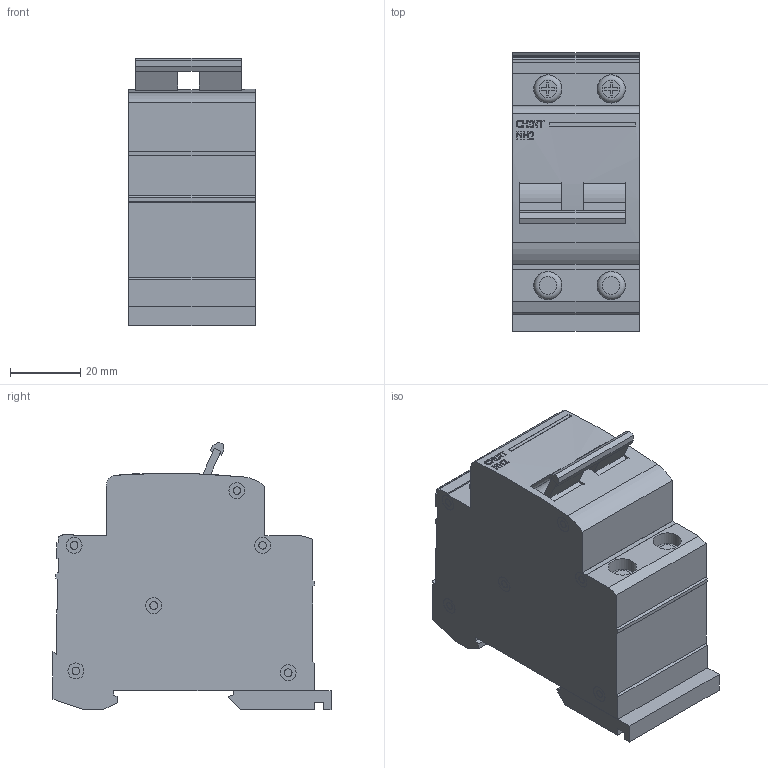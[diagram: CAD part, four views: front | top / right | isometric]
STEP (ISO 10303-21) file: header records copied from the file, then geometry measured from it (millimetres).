
FILE_DESCRIPTION(/* description */ (''),/* implementation_level */ '2;1');
FILE_NAME(/* name */ 'D:\CHINT\NH2\Нагр. выключатель NH2 2P 32A (CHINT).stp',/* time_stamp */ '2017-09-30T15:13:24+04:00',/* author */ ('RSagdiev'),/* organization */ (''),/* preprocessor_version */ 'ST-DEVELOPER v16.5',/* originating_system */ 'Autodesk Inventor 2017',/* authorisation */ '');
FILE_SCHEMA (('AUTOMOTIVE_DESIGN { 1 0 10303 214 3 1 1 }'));
Length unit declared in the file: millimetre
Products named in the file (1): Нагр. \X2\0432044B043A043B044E0447
043004420435043B044C\X0\ NH2 2P 32A (CHINT)
Bounding box: 36 x 79 x 76.13 mm (x, y, z)
Volume: 150085.1 mm3; surface area: 26899.7 mm2
Topology: 9 solids, 13 shells, 350 faces, 815 edges, 538 vertices
Faces by surface type: plane 249, cylinder 70, bspline 27, torus 4
Full cylindrical faces by diameter (mm): 2.111 x4, 2.171 x4, 2.212 x12, 4.524 x18, 8 x8
Entity records: 10275 total; most frequent: CARTESIAN_POINT 2375, DIRECTION 1571, ORIENTED_EDGE 1530, EDGE_CURVE 765, AXIS2_PLACEMENT_3D 540, VERTEX_POINT 538, LINE 491, VECTOR 491
